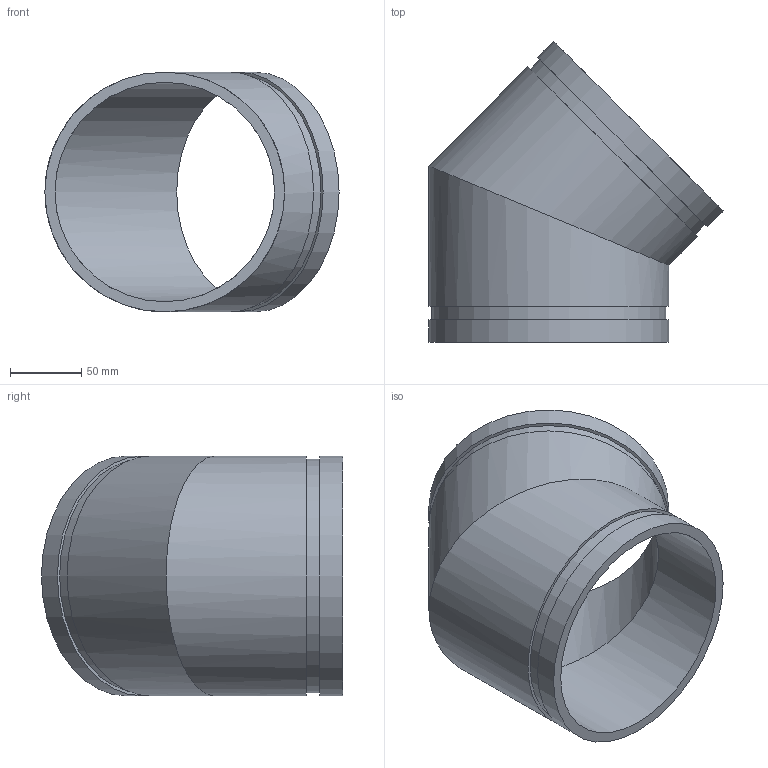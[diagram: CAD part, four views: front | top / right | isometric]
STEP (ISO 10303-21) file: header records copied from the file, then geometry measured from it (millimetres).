
FILE_DESCRIPTION(/* description */ ('VIC 45 DEG FABRICATED ELBOW No 11 SWS (OGS)','CAx-IF Rec.Pracs.---Representation and Presentation of Product Manufacturing Information (PMI)---4.0---2014-10-13'),/* implementation_level */ '2;1');
FILE_NAME(/* name */ 'C:\Users\kkamble\AppData\Roaming\Autodesk\ApplicationPlugins\Back Up\Victaulic_IPS_Elbow 45 Deg_No 11 SWS (OGS)\Victaulic_IPS_Elbow 45 Deg_No 11 SWS (OGS)_6 (150).stp',/* time_stamp */ '2020-09-16T22:14:46+06:00',/* author */ ('cgray'),/* organization */ ('Victaulic'),/* preprocessor_version */ 'ST-DEVELOPER v17.2',/* originating_system */ 'Autodesk Inventor 2019',/* authorisation */ '');
FILE_SCHEMA (('AP242_MANAGED_MODEL_BASED_3D_ENGINEERING_MIM_LF { 1 0 10303 442 1 1 4 }'));
Length unit declared in the file: inch
Products named in the file (1): 11 SWS-06.0
Bounding box: 206.49 x 211.26 x 168.28 mm (x, y, z)
Volume: 618770.1 mm3; surface area: 191493.5 mm2
Topology: 1 solids, 1 shells, 14 faces, 30 edges, 22 vertices
Faces by surface type: cylinder 8, plane 6
Full cylindrical faces by diameter (mm): 154.051 x2, 163.957 x2, 168.275 x4
Entity records: 554 total; most frequent: DIRECTION 108, CARTESIAN_POINT 84, ORIENTED_EDGE 60, AXIS2_PLACEMENT_3D 50, EDGE_CURVE 30, VERTEX_POINT 22, EDGE_LOOP 20, CIRCLE 16
